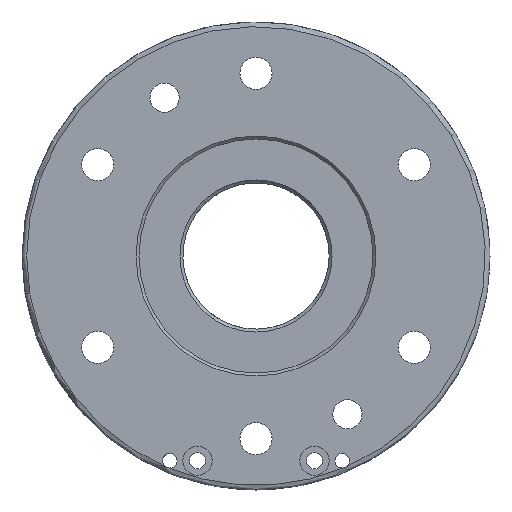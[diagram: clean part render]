
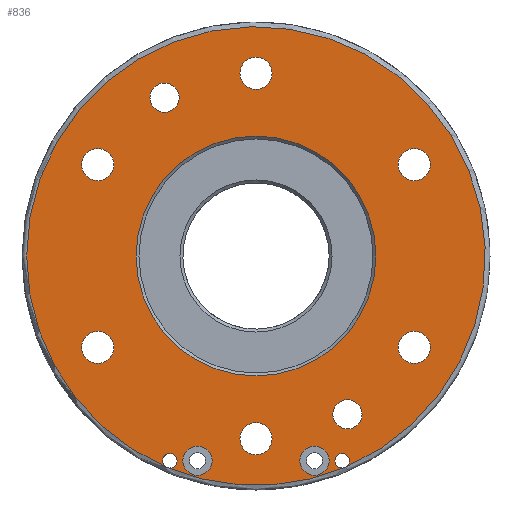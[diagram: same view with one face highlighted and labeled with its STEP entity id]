
A CAD part, front view. The second image highlights one B-rep face of the part: STEP entity #836.
In plain terms, the highlighted planar face has unit normal (0, -1, 0).
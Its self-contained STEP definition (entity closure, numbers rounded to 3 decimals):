
#72=PLANE('',#901);
#121=FACE_BOUND('',#242,.T.);
#122=FACE_BOUND('',#243,.T.);
#123=FACE_BOUND('',#244,.T.);
#124=FACE_BOUND('',#245,.T.);
#125=FACE_BOUND('',#246,.T.);
#126=FACE_BOUND('',#247,.T.);
#127=FACE_BOUND('',#248,.T.);
#128=FACE_BOUND('',#249,.T.);
#129=FACE_BOUND('',#250,.T.);
#130=FACE_BOUND('',#251,.T.);
#131=FACE_BOUND('',#252,.T.);
#132=FACE_BOUND('',#253,.T.);
#242=EDGE_LOOP('',(#630));
#243=EDGE_LOOP('',(#631,#632,#633,#634));
#244=EDGE_LOOP('',(#635));
#245=EDGE_LOOP('',(#636));
#246=EDGE_LOOP('',(#637));
#247=EDGE_LOOP('',(#638));
#248=EDGE_LOOP('',(#639));
#249=EDGE_LOOP('',(#640));
#250=EDGE_LOOP('',(#641));
#251=EDGE_LOOP('',(#642));
#252=EDGE_LOOP('',(#643));
#253=EDGE_LOOP('',(#644));
#357=CIRCLE('',#895,78.4);
#358=CIRCLE('',#896,78.4);
#361=CIRCLE('',#900,2.5);
#362=CIRCLE('',#902,41.);
#363=CIRCLE('',#903,2.5);
#364=CIRCLE('',#904,5.);
#365=CIRCLE('',#905,5.);
#366=CIRCLE('',#906,5.5);
#367=CIRCLE('',#907,5.5);
#368=CIRCLE('',#908,5.5);
#369=CIRCLE('',#909,5.5);
#370=CIRCLE('',#910,5.5);
#371=CIRCLE('',#911,5.5);
#372=CIRCLE('',#912,5.);
#373=CIRCLE('',#913,5.);
#433=VERTEX_POINT('',#1285);
#434=VERTEX_POINT('',#1286);
#435=VERTEX_POINT('',#1293);
#436=VERTEX_POINT('',#1295);
#439=VERTEX_POINT('',#1310);
#440=VERTEX_POINT('',#1313);
#441=VERTEX_POINT('',#1315);
#442=VERTEX_POINT('',#1317);
#443=VERTEX_POINT('',#1319);
#444=VERTEX_POINT('',#1321);
#445=VERTEX_POINT('',#1323);
#446=VERTEX_POINT('',#1325);
#447=VERTEX_POINT('',#1327);
#448=VERTEX_POINT('',#1329);
#449=VERTEX_POINT('',#1331);
#519=EDGE_CURVE('',#434,#435,#357,.T.);
#521=EDGE_CURVE('',#436,#433,#358,.T.);
#524=EDGE_CURVE('',#436,#435,#361,.T.);
#525=EDGE_CURVE('',#439,#439,#362,.T.);
#526=EDGE_CURVE('',#434,#433,#363,.T.);
#527=EDGE_CURVE('',#440,#440,#364,.T.);
#528=EDGE_CURVE('',#441,#441,#365,.T.);
#529=EDGE_CURVE('',#442,#442,#366,.T.);
#530=EDGE_CURVE('',#443,#443,#367,.T.);
#531=EDGE_CURVE('',#444,#444,#368,.T.);
#532=EDGE_CURVE('',#445,#445,#369,.T.);
#533=EDGE_CURVE('',#446,#446,#370,.T.);
#534=EDGE_CURVE('',#447,#447,#371,.T.);
#535=EDGE_CURVE('',#448,#448,#372,.T.);
#536=EDGE_CURVE('',#449,#449,#373,.T.);
#630=ORIENTED_EDGE('',*,*,#525,.F.);
#631=ORIENTED_EDGE('',*,*,#521,.F.);
#632=ORIENTED_EDGE('',*,*,#524,.T.);
#633=ORIENTED_EDGE('',*,*,#519,.F.);
#634=ORIENTED_EDGE('',*,*,#526,.T.);
#635=ORIENTED_EDGE('',*,*,#527,.T.);
#636=ORIENTED_EDGE('',*,*,#528,.T.);
#637=ORIENTED_EDGE('',*,*,#529,.T.);
#638=ORIENTED_EDGE('',*,*,#530,.T.);
#639=ORIENTED_EDGE('',*,*,#531,.T.);
#640=ORIENTED_EDGE('',*,*,#532,.T.);
#641=ORIENTED_EDGE('',*,*,#533,.T.);
#642=ORIENTED_EDGE('',*,*,#534,.T.);
#643=ORIENTED_EDGE('',*,*,#535,.T.);
#644=ORIENTED_EDGE('',*,*,#536,.T.);
#836=ADVANCED_FACE('',(#121,#122,#123,#124,#125,#126,#127,#128,#129,#130,
#131,#132),#72,.T.);
#895=AXIS2_PLACEMENT_3D('',#1294,#1019,#1020);
#896=AXIS2_PLACEMENT_3D('',#1302,#1021,#1022);
#900=AXIS2_PLACEMENT_3D('',#1308,#1029,#1030);
#901=AXIS2_PLACEMENT_3D('',#1309,#1031,#1032);
#902=AXIS2_PLACEMENT_3D('',#1311,#1033,#1034);
#903=AXIS2_PLACEMENT_3D('',#1312,#1035,#1036);
#904=AXIS2_PLACEMENT_3D('',#1314,#1037,#1038);
#905=AXIS2_PLACEMENT_3D('',#1316,#1039,#1040);
#906=AXIS2_PLACEMENT_3D('',#1318,#1041,#1042);
#907=AXIS2_PLACEMENT_3D('',#1320,#1043,#1044);
#908=AXIS2_PLACEMENT_3D('',#1322,#1045,#1046);
#909=AXIS2_PLACEMENT_3D('',#1324,#1047,#1048);
#910=AXIS2_PLACEMENT_3D('',#1326,#1049,#1050);
#911=AXIS2_PLACEMENT_3D('',#1328,#1051,#1052);
#912=AXIS2_PLACEMENT_3D('',#1330,#1053,#1054);
#913=AXIS2_PLACEMENT_3D('',#1332,#1055,#1056);
#1019=DIRECTION('center_axis',(0.,1.,0.));
#1020=DIRECTION('ref_axis',(1.,0.,0.));
#1021=DIRECTION('center_axis',(0.,1.,0.));
#1022=DIRECTION('ref_axis',(1.,0.,0.));
#1029=DIRECTION('center_axis',(0.,1.,0.));
#1030=DIRECTION('ref_axis',(1.,0.,0.));
#1031=DIRECTION('center_axis',(0.,-1.,0.));
#1032=DIRECTION('ref_axis',(0.,0.,-1.));
#1033=DIRECTION('center_axis',(0.,-1.,0.));
#1034=DIRECTION('ref_axis',(-1.,0.,0.));
#1035=DIRECTION('center_axis',(0.,1.,0.));
#1036=DIRECTION('ref_axis',(1.,0.,0.));
#1037=DIRECTION('center_axis',(0.,1.,0.));
#1038=DIRECTION('ref_axis',(1.,0.,0.));
#1039=DIRECTION('center_axis',(0.,1.,0.));
#1040=DIRECTION('ref_axis',(1.,0.,0.));
#1041=DIRECTION('center_axis',(0.,1.,0.));
#1042=DIRECTION('ref_axis',(1.,0.,0.));
#1043=DIRECTION('center_axis',(0.,1.,0.));
#1044=DIRECTION('ref_axis',(1.,0.,0.));
#1045=DIRECTION('center_axis',(0.,1.,0.));
#1046=DIRECTION('ref_axis',(1.,0.,0.));
#1047=DIRECTION('center_axis',(0.,1.,0.));
#1048=DIRECTION('ref_axis',(1.,0.,0.));
#1049=DIRECTION('center_axis',(0.,1.,0.));
#1050=DIRECTION('ref_axis',(1.,0.,0.));
#1051=DIRECTION('center_axis',(0.,1.,0.));
#1052=DIRECTION('ref_axis',(1.,0.,0.));
#1053=DIRECTION('center_axis',(0.,1.,0.));
#1054=DIRECTION('ref_axis',(1.,0.,0.));
#1055=DIRECTION('center_axis',(0.,1.,0.));
#1056=DIRECTION('ref_axis',(1.,0.,0.));
#1285=CARTESIAN_POINT('',(-29.927,0.,-72.463));
#1286=CARTESIAN_POINT('',(-30.965,0.,-72.026));
#1293=CARTESIAN_POINT('',(30.965,0.,-72.026));
#1294=CARTESIAN_POINT('Origin',(0.,0.,0.));
#1295=CARTESIAN_POINT('',(29.927,0.,-72.463));
#1302=CARTESIAN_POINT('Origin',(0.,0.,0.));
#1308=CARTESIAN_POINT('Origin',(29.5,0.,-70.));
#1309=CARTESIAN_POINT('Origin',(-52.5,0.,0.));
#1310=CARTESIAN_POINT('',(41.,0.,0.));
#1311=CARTESIAN_POINT('Origin',(0.,0.,0.));
#1312=CARTESIAN_POINT('Origin',(-29.5,0.,-70.));
#1313=CARTESIAN_POINT('',(25.,0.,-70.));
#1314=CARTESIAN_POINT('Origin',(20.,0.,-70.));
#1315=CARTESIAN_POINT('',(-15.,0.,-70.));
#1316=CARTESIAN_POINT('Origin',(-20.,0.,-70.));
#1317=CARTESIAN_POINT('',(-5.5,0.,-62.5));
#1318=CARTESIAN_POINT('Origin',(0.,0.,-62.5));
#1319=CARTESIAN_POINT('',(-59.627,0.,-31.25));
#1320=CARTESIAN_POINT('Origin',(-54.127,0.,-31.25));
#1321=CARTESIAN_POINT('',(-59.627,0.,31.25));
#1322=CARTESIAN_POINT('Origin',(-54.127,0.,31.25));
#1323=CARTESIAN_POINT('',(-5.5,0.,62.5));
#1324=CARTESIAN_POINT('Origin',(0.,0.,62.5));
#1325=CARTESIAN_POINT('',(48.627,0.,31.25));
#1326=CARTESIAN_POINT('Origin',(54.127,0.,31.25));
#1327=CARTESIAN_POINT('',(48.627,0.,-31.25));
#1328=CARTESIAN_POINT('Origin',(54.127,0.,-31.25));
#1329=CARTESIAN_POINT('',(-36.25,0.,54.127));
#1330=CARTESIAN_POINT('Origin',(-31.25,0.,54.127));
#1331=CARTESIAN_POINT('',(26.25,0.,-54.127));
#1332=CARTESIAN_POINT('Origin',(31.25,0.,-54.127));
